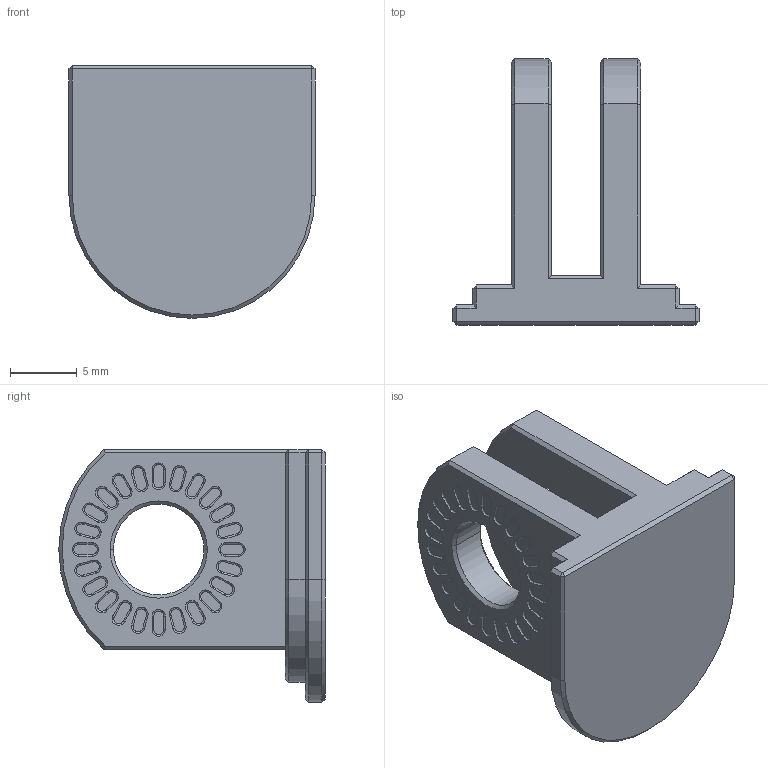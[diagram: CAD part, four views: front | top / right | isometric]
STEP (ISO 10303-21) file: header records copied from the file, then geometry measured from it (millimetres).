
FILE_DESCRIPTION(/* description */ ('STEP AP242','CAx-IF Rec.Pracs.---Representation and Presentation of Product Manufacturing Information (PMI)---4.0---2014-10-13','CAx-IF Rec.Pracs.---3D Tessellated Geometry---0.4---2014-09-14','2;1'),/* implementation_level */ '2;1');
FILE_NAME(/* name */ '65fac841057e9e6b1adb5ee6',/* time_stamp */ '2024-03-20T11:28:03Z',/* author */ (''),/* organization */ (''),/* preprocessor_version */ 'ST-DEVELOPER v19.4',/* originating_system */ ' ',/* authorisation */ ' ');
FILE_SCHEMA (('AP242_MANAGED_MODEL_BASED_3D_ENGINEERING_MIM_LF { 1 0 10303 442 1 1 4 }'));
Length unit declared in the file: metre
Products named in the file (1): GoPro_Like_Joint_Case_Clip
Bounding box: 18.48 x 20 x 18.97 mm (x, y, z)
Volume: 2071.8 mm3; surface area: 1870 mm2
Topology: 1 solids, 1 shells, 308 faces, 826 edges, 568 vertices
Faces by surface type: bspline 308
Entity records: 11428 total; most frequent: CARTESIAN_POINT 4291, ORIENTED_EDGE 1652, DIRECTION 1323, EDGE_CURVE 826, VERTEX_POINT 568, AXIS2_PLACEMENT_3D 516, CIRCLE 515, EDGE_LOOP 360
